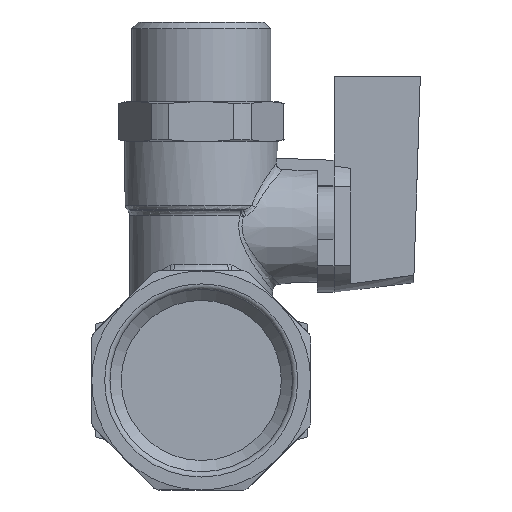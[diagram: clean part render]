
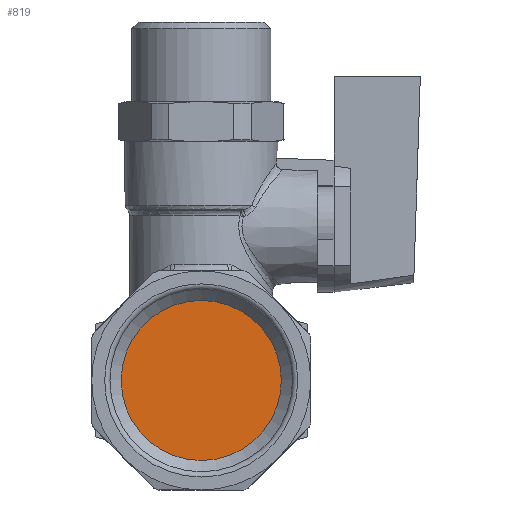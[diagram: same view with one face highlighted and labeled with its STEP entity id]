
A CAD part, front view. The second image highlights one B-rep face of the part: STEP entity #819.
In plain terms, the highlighted planar face has unit normal (0, -1, 0).
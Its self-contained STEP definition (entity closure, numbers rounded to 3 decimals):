
#819=ADVANCED_FACE('',(#9614),#9616,.T.);
#9614=FACE_BOUND('',#9615,.T.);
#9615=EDGE_LOOP('',(#15797));
#9616=PLANE('',#9617);
#9617=AXIS2_PLACEMENT_3D('',#9618,#9619,#9620);
#9618=CARTESIAN_POINT('',(0.,17.5,0.));
#9619=DIRECTION('',(0.,-1.,0.));
#9620=DIRECTION('',(0.,0.,-1.));
#15797=ORIENTED_EDGE('',*,*,#18385,.T.);
#18385=EDGE_CURVE('',#22080,#22080,#22081,.T.);
#22080=VERTEX_POINT('',#39551);
#22081=CIRCLE('',#39552,12.059);
#39551=CARTESIAN_POINT('',(0.,17.5,-12.059));
#39552=AXIS2_PLACEMENT_3D('',#39553,#39554,#39555);
#39553=CARTESIAN_POINT('',(0.,17.5,0.));
#39554=DIRECTION('',(0.,-1.,0.));
#39555=DIRECTION('',(0.,0.,-1.));
